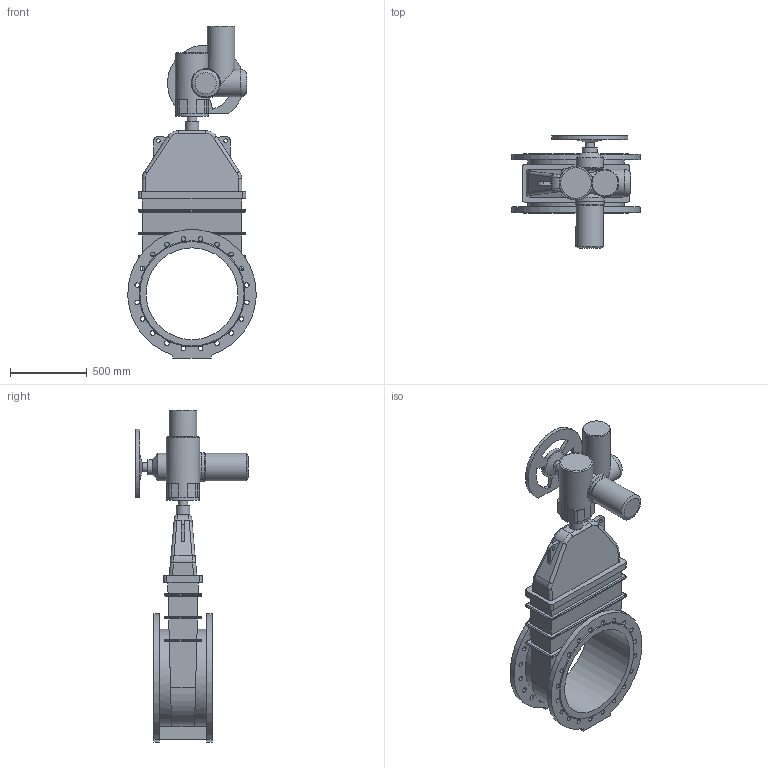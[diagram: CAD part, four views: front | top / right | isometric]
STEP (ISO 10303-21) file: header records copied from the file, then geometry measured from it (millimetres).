
FILE_DESCRIPTION(('STEP AP203'), '1');
FILE_NAME('青溻桄赅 47GVA DN600 PN10+MT903.A60', '', ('UNSPECIFIED'), ('UNSPECIFIED'), 'ASCON STEP Converter 1.6', 'ASCON Math Kernel', '');
FILE_SCHEMA(('CONFIG_CONTROL_DESIGN'));
Length unit declared in the file: millimetre
Bounding box: 838.28 x 733 x 2170 mm (x, y, z)
Volume: 165735111.4 mm3; surface area: 5708436.4 mm2
Topology: 2 solids, 2 shells, 334 faces, 837 edges, 534 vertices
Faces by surface type: cylinder 157, plane 133, bspline 32, cone 11, torus 1
Full cylindrical faces by diameter (mm): 17.5 x4, 22 x4, 25 x2, 30 x40, 40 x1, 60 x2, 90 x1, 100 x1, 130 x2, 140 x1, 180 x4, 187 x1, 191 x1, 210 x1, 220 x1, 600 x1
Entity records: 16490 total; most frequent: CARTESIAN_POINT 6077, DIRECTION 1524, ORIENTED_EDGE 1516, EDGE_CURVE 758, AXIS2_PLACEMENT_3D 580, EDGE_LOOP 539, VERTEX_POINT 533, FACE_BOUND 393
